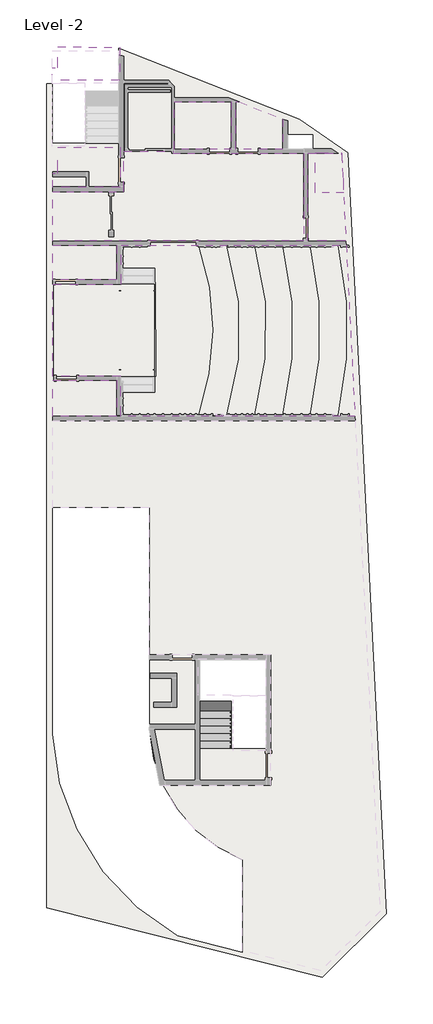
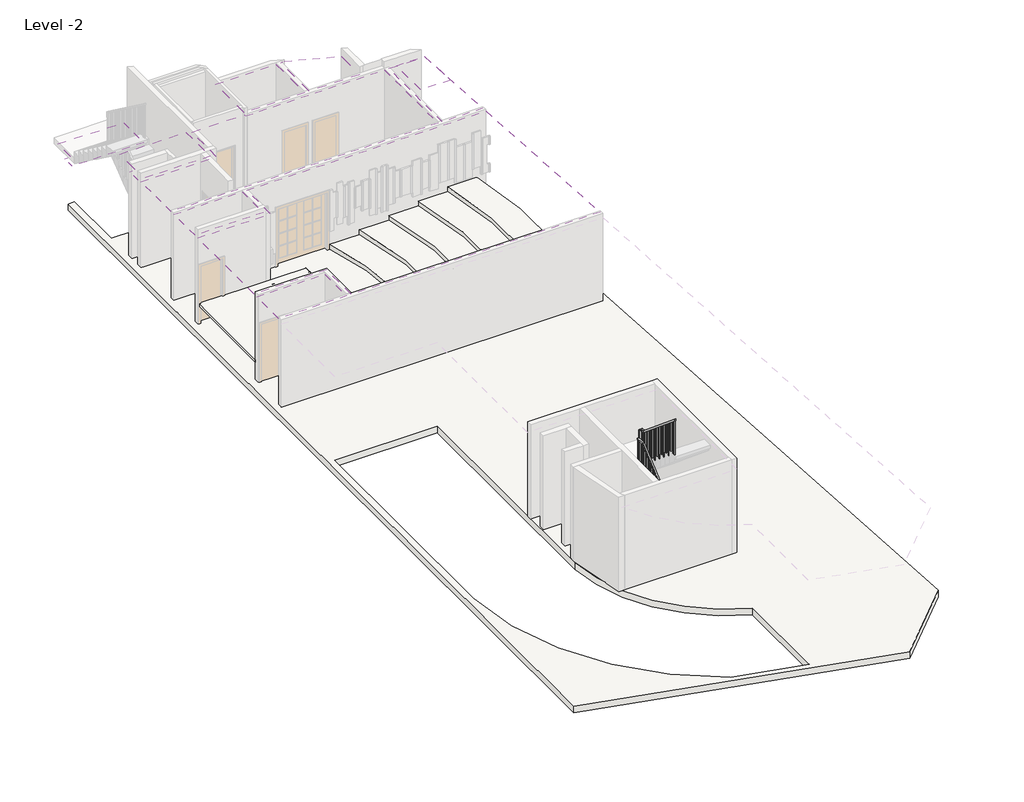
# One storey, part 5 of 6: 10 coverings, 7 slabs, 1 railing, 1 stair flight.
"""IFC4 building model written with IfcOpenShell, lengths in millimetres."""

from ifc_helpers import new_model, si_unit, point, frame, frame_2d, origin, place, context, project, spatial, polyline, circle_curve, trimmed, segment, composite_curve, outline, extrude, faceted_brep, element, save
from ifc_brep_helpers import plane_surface, cylinder_surface, revolved_surface, advanced_brep

model = new_model("IFC4")

# Units and contexts
model_context = context("Model", 3, world=origin())
ifc_project = project(units=[si_unit("LENGTHUNIT", "METRE", prefix="MILLI")], contexts=[model_context])

# Site, building, storey
site = spatial("IfcSite", under=ifc_project)
building = spatial("IfcBuilding", under=site)
storey = spatial("IfcBuildingStorey", under=building, Name="Level -2", Elevation=-7000.0)

# Coverings
placement = place(None, origin())
element("IfcCovering", 1, ObjectType="600 x 600mm Grid", at=placement, inside=storey, context=model_context, shape_type="SweptSolid", body=[
    extrude(outline(polyline([(2506.6368117, 6526.33213), (10908.1733563, 6526.33213), (11233.1660454, 141.5114142), (2500.2894211, 141.5114142), (2500.2894211, 1642.9427762), (-50.0290025, 1642.9427762), (-50.0290025, 5079.4754021), (2506.6368117, 5079.4754021), (2506.6368117, 6526.33213)])), frame((0.0, 0.0, -3800.0), z_axis=(0.0, 0.0, 1.0), x_axis=(1.0, 0.0, 0.0)), (0.0, 0.0, 1.0), 52.0),
])
element("IfcCovering", 2, ObjectType="600 x 600mm Grid", at=placement, inside=storey, context=model_context, shape_type="SweptSolid", body=[
    extrude(outline(polyline([(-50.0290025, 5239.4754021), (-50.0290025, 6526.33213), (2346.6368117, 6526.33213), (2346.6368117, 5239.4754021), (-50.0290025, 5239.4754021)])), frame((0.0, 0.0, -3800.0), z_axis=(0.0, 0.0, 1.0), x_axis=(1.0, 0.0, 0.0)), (0.0, 0.0, 1.0), 52.0),
])
element("IfcCovering", 3, ObjectType="600 x 600mm Grid", at=placement, inside=storey, context=model_context, shape_type="SweptSolid", body=[
    extrude(outline(polyline([(-50.0290025, 141.5114142), (-50.0290025, 1482.9427762), (2340.2894211, 1482.9427762), (2340.2894211, 141.5114142), (-50.0290025, 141.5114142)])), frame((0.0, 0.0, -3800.0), z_axis=(0.0, 0.0, 1.0), x_axis=(1.0, 0.0, 0.0)), (0.0, 0.0, 1.0), 52.0),
])
element("IfcCovering", 4, ObjectType="600 x 600mm Grid", at=placement, inside=storey, context=model_context, shape_type="SweptSolid", body=[
    extrude(outline(polyline([(-50.0290025, 6686.33213), (-50.0290025, 8531.9436159), (2599.6668671, 8531.9436159), (2599.6668671, 10031.9436225), (4449.6302337, 10031.9436225), (4449.6302337, 9954.899122), (9326.0873915, 9954.899122), (9326.0873915, 6686.33213), (-50.0290025, 6686.33213)])), frame((0.0, 0.0, -3800.0), z_axis=(0.0, 0.0, 1.0), x_axis=(1.0, 0.0, 0.0)), (0.0, 0.0, 1.0), 52.0),
])
element("IfcCovering", 5, ObjectType="600 x 600mm Grid", at=placement, inside=storey, context=model_context, shape_type="SweptSolid", body=[
    extrude(outline(polyline([(6783.7193041, 11874.4782744), (6923.4577063, 11874.4782744), (8546.2956563, 11236.7124719), (8546.2956563, 10114.899122), (6783.7193041, 10114.899122), (6783.7193041, 11874.4782744)])), frame((0.0, 0.0, -3800.0), z_axis=(0.0, 0.0, 1.0), x_axis=(1.0, 0.0, 0.0)), (0.0, 0.0, 1.0), 52.0),
])
element("IfcCovering", 6, ObjectType="600 x 600mm Grid", at=placement, inside=storey, context=model_context, shape_type="SweptSolid", body=[
    extrude(outline(polyline([(4499.6302337, 10114.899122), (4499.6302337, 11874.4782744), (6623.7193041, 11874.4782744), (6623.7193041, 10114.899122), (4499.6302337, 10114.899122)])), frame((0.0, 0.0, -3800.0), z_axis=(0.0, 0.0, 1.0), x_axis=(1.0, 0.0, 0.0)), (0.0, 0.0, 1.0), 52.0),
])
element("IfcCovering", 7, ObjectType="600 x 600mm Grid", at=placement, inside=storey, context=model_context, shape_type="SweptSolid", body=[
    extrude(outline(polyline([(9476.0873915, 9954.899122), (10733.6564426, 9954.899122), (10900.0292232, 6686.33213), (9476.0873915, 6686.33213), (9476.0873915, 9954.899122)])), frame((0.0, 0.0, -3800.0), z_axis=(0.0, 0.0, 1.0), x_axis=(1.0, 0.0, 0.0)), (0.0, 0.0, 1.0), 52.0),
])
element("IfcCovering", 8, ObjectType="600 x 600mm Grid", at=placement, inside=storey, context=model_context, shape_type="SweptSolid", body=[
    extrude(outline(polyline([(9748.9783115, 9974.899122), (10732.6384259, 9974.899122), (10808.7312912, 8479.9753316), (9748.9783115, 8479.9753316), (9748.9783115, 9974.899122)])), frame((0.0, 0.0, -3800.0), z_axis=(0.0, 0.0, 1.0), x_axis=(1.0, 0.0, 0.0)), (0.0, 0.0, 1.0), 52.0),
])
element("IfcCovering", 9, ObjectType="600 x 600mm Grid", at=placement, inside=storey, context=model_context, shape_type="SweptSolid", body=[
    extrude(outline(polyline([(2481.8607589, 10179.4957281), (2481.8607589, 8696.8748746), (-50.0421304, 8696.8748746), (-50.0421304, 9219.4957281), (149.9709975, 9219.4957281), (149.9709975, 10179.4957281), (2481.8607589, 10179.4957281)])), frame((0.0, 0.0, -3850.0), z_axis=(0.0, 0.0, 1.0), x_axis=(1.0, 0.0, 0.0)), (0.0, 0.0, 1.0), 52.0),
])
element("IfcCovering", 10, ObjectType="600 x 600mm Grid", at=placement, inside=storey, context=model_context, shape_type="SweptSolid", body=[
    extrude(outline(polyline([(2454.9743495, 12688.8107611), (-60.0421304, 12688.8107611), (-60.0421304, 13143.419171), (149.9709975, 13143.419171), (149.9709975, 13943.419171), (2454.9743495, 13908.8107611), (2454.9743495, 12688.8107611)])), frame((0.0, 0.0, -5750.0), z_axis=(0.0, 0.0, 1.0), x_axis=(1.0, 0.0, 0.0)), (0.0, 0.0, 1.0), 52.0),
])

# Railing
element("IfcRailing", 11, ObjectType="1100mm", at=placement, inside=storey, context=model_context, shape_type="SolidModel", body=[
    faceted_brep([(6559.5709976, -12235.6929429, -5666.6666667), (6559.5709976, -12235.6929429, -5731.7520806), (6609.5709976, -12235.6929429, -5731.7520806), (6609.5709976, -12235.6929429, -5666.6666667), (6559.5709976, -10555.6929429, -4266.6666667), (6559.5709976, -10537.5904462, -4316.6666667), (6609.5709976, -10537.5904462, -4316.6666667), (6609.5709976, -10555.6929429, -4266.6666667), (6559.5709976, -10225.2929429, -4266.6666667), (6559.5709976, -10225.2929429, -4316.6666667), (6609.5709976, -10275.2929429, -4316.6666667), (6609.5709976, -10275.2929429, -4266.6666667), (6615.3709976, -10225.2929429, -4266.6666667), (6665.3709976, -10225.2929429, -4316.6666667), (6665.3709976, -10275.2929429, -4316.6666667), (6615.3709976, -10275.2929429, -4266.6666667), (6615.3709976, -10225.2929429, -3971.1666667), (6665.3709976, -10225.2929429, -4021.1666667), (6665.3709976, -10275.2929429, -4021.1666667), (6615.3709976, -10275.2929429, -3971.1666667), (6740.3709976, -10225.2929429, -3971.1666667), (6740.3709976, -10225.2929429, -4021.1666667), (6690.3709976, -10275.2929429, -4021.1666667), (6690.3709976, -10275.2929429, -3971.1666667), (6740.3709976, -10350.2929429, -3971.1666667), (6740.3709976, -10368.3954397, -4021.1666667), (6690.3709976, -10368.3954397, -4021.1666667), (6690.3709976, -10350.2929429, -3971.1666667), (6740.3709976, -12235.6929429, -2400.0), (6690.3709976, -12235.6929429, -2400.0), (6690.3709976, -12235.6929429, -2465.085414), (6740.3709976, -12235.6929429, -2465.085414)], [[[0, 1, 2, 3]], [[1, 0, 4, 5]], [[2, 1, 5, 6]], [[3, 2, 6, 7]], [[0, 3, 7, 4]], [[5, 4, 8, 9]], [[6, 5, 9, 10]], [[7, 6, 10, 11]], [[4, 7, 11, 8]], [[9, 8, 12, 13]], [[10, 9, 13, 14]], [[11, 10, 14, 15]], [[8, 11, 15, 12]], [[13, 12, 16, 17]], [[14, 13, 17, 18]], [[15, 14, 18, 19]], [[12, 15, 19, 16]], [[17, 16, 20, 21]], [[18, 17, 21, 22]], [[19, 18, 22, 23]], [[16, 19, 23, 20]], [[21, 20, 24, 25]], [[22, 21, 25, 26]], [[23, 22, 26, 27]], [[20, 23, 27, 24]], [[28, 29, 30, 31]], [[25, 24, 28, 31]], [[26, 25, 31, 30]], [[27, 26, 30, 29]], [[24, 27, 29, 28]]]),
    extrude(outline(polyline([(-12127.7929429, -2555.0020806), (-12127.7929429, -3733.3333333), (-12152.7929429, -3733.3333333), (-12152.7929429, -2534.1687473), (-12127.7929429, -2555.0020806)])), frame((6702.8709976, 0.0, 0.0), z_axis=(1.0, 0.0, 0.0), x_axis=(0.0, 1.0, 0.0)), (0.0, 0.0, 1.0), 25.0),
    extrude(outline(polyline([(-11987.7929429, -2671.6687473), (-11987.7929429, -3733.3333333), (-12012.7929429, -3733.3333333), (-12012.7929429, -2650.835414), (-11987.7929429, -2671.6687473)])), frame((6702.8709976, 0.0, 0.0), z_axis=(1.0, 0.0, 0.0), x_axis=(0.0, 1.0, 0.0)), (0.0, 0.0, 1.0), 25.0),
    extrude(outline(polyline([(-11847.7929429, -2788.335414), (-11847.7929429, -3966.6666667), (-11872.7929429, -3966.6666667), (-11872.7929429, -2767.5020806), (-11847.7929429, -2788.335414)])), frame((6702.8709976, 0.0, 0.0), z_axis=(1.0, 0.0, 0.0), x_axis=(0.0, 1.0, 0.0)), (0.0, 0.0, 1.0), 25.0),
    extrude(outline(polyline([(-11707.7929429, -2905.0020806), (-11707.7929429, -3966.6666667), (-11732.7929429, -3966.6666667), (-11732.7929429, -2884.1687473), (-11707.7929429, -2905.0020806)])), frame((6702.8709976, 0.0, 0.0), z_axis=(1.0, 0.0, 0.0), x_axis=(0.0, 1.0, 0.0)), (0.0, 0.0, 1.0), 25.0),
    extrude(outline(polyline([(-11567.7929429, -3021.6687473), (-11567.7929429, -4200.0), (-11592.7929429, -4200.0), (-11592.7929429, -3000.835414), (-11567.7929429, -3021.6687473)])), frame((6702.8709976, 0.0, 0.0), z_axis=(1.0, 0.0, 0.0), x_axis=(0.0, 1.0, 0.0)), (0.0, 0.0, 1.0), 25.0),
    extrude(outline(polyline([(-11427.7929429, -3138.335414), (-11427.7929429, -4200.0), (-11452.7929429, -4200.0), (-11452.7929429, -3117.5020806), (-11427.7929429, -3138.335414)])), frame((6702.8709976, 0.0, 0.0), z_axis=(1.0, 0.0, 0.0), x_axis=(0.0, 1.0, 0.0)), (0.0, 0.0, 1.0), 25.0),
    extrude(outline(polyline([(-11287.7929429, -3255.0020806), (-11287.7929429, -4433.3333333), (-11312.7929429, -4433.3333333), (-11312.7929429, -3234.1687473), (-11287.7929429, -3255.0020806)])), frame((6702.8709976, 0.0, 0.0), z_axis=(1.0, 0.0, 0.0), x_axis=(0.0, 1.0, 0.0)), (0.0, 0.0, 1.0), 25.0),
    extrude(outline(polyline([(-11147.7929429, -3371.6687473), (-11147.7929429, -4433.3333333), (-11172.7929429, -4433.3333333), (-11172.7929429, -3350.835414), (-11147.7929429, -3371.6687473)])), frame((6702.8709976, 0.0, 0.0), z_axis=(1.0, 0.0, 0.0), x_axis=(0.0, 1.0, 0.0)), (0.0, 0.0, 1.0), 25.0),
    extrude(outline(polyline([(-11007.7929429, -3488.335414), (-11007.7929429, -4666.6666667), (-11032.7929429, -4666.6666667), (-11032.7929429, -3467.5020806), (-11007.7929429, -3488.335414)])), frame((6702.8709976, 0.0, 0.0), z_axis=(1.0, 0.0, 0.0), x_axis=(0.0, 1.0, 0.0)), (0.0, 0.0, 1.0), 25.0),
    extrude(outline(polyline([(-10867.7929429, -3605.0020806), (-10867.7929429, -4666.6666667), (-10892.7929429, -4666.6666667), (-10892.7929429, -3584.1687473), (-10867.7929429, -3605.0020806)])), frame((6702.8709976, 0.0, 0.0), z_axis=(1.0, 0.0, 0.0), x_axis=(0.0, 1.0, 0.0)), (0.0, 0.0, 1.0), 25.0),
    extrude(outline(polyline([(-10727.7929429, -3721.6687473), (-10727.7929429, -4900.0), (-10752.7929429, -4900.0), (-10752.7929429, -3700.835414), (-10727.7929429, -3721.6687473)])), frame((6702.8709976, 0.0, 0.0), z_axis=(1.0, 0.0, 0.0), x_axis=(0.0, 1.0, 0.0)), (0.0, 0.0, 1.0), 25.0),
    extrude(outline(polyline([(-10587.7929429, -3838.335414), (-10587.7929429, -4900.0), (-10612.7929429, -4900.0), (-10612.7929429, -3817.5020806), (-10587.7929429, -3838.335414)])), frame((6702.8709976, 0.0, 0.0), z_axis=(1.0, 0.0, 0.0), x_axis=(0.0, 1.0, 0.0)), (0.0, 0.0, 1.0), 25.0),
    extrude(outline(polyline([(-10447.7929429, -3955.0020806), (-10447.7929429, -5133.3333333), (-10472.7929429, -5133.3333333), (-10472.7929429, -3934.1687473), (-10447.7929429, -3955.0020806)])), frame((6702.8709976, 0.0, 0.0), z_axis=(1.0, 0.0, 0.0), x_axis=(0.0, 1.0, 0.0)), (0.0, 0.0, 1.0), 25.0),
    extrude(outline(polyline([(6702.8709976, -10307.7929429), (6727.8709976, -10307.7929429), (6727.8709976, -10332.7929429), (6702.8709976, -10332.7929429), (6702.8709976, -10307.7929429)])), frame((0.0, 0.0, -5133.3333333), z_axis=(0.0, 0.0, 1.0), x_axis=(1.0, 0.0, 0.0)), (0.0, 0.0, 1.0), 1112.1666667),
    extrude(outline(polyline([(6642.0709976, -10262.7929429), (6642.0709976, -10237.7929429), (6667.0709976, -10237.7929429), (6667.0709976, -10262.7929429), (6642.0709976, -10262.7929429)])), frame((0.0, 0.0, -5366.6666667), z_axis=(0.0, 0.0, 1.0), x_axis=(1.0, 0.0, 0.0)), (0.0, 0.0, 1.0), 1050.0),
    extrude(outline(polyline([(6597.0709976, -10358.1929429), (6572.0709976, -10358.1929429), (6572.0709976, -10333.1929429), (6597.0709976, -10333.1929429), (6597.0709976, -10358.1929429)])), frame((0.0, 0.0, -5366.6666667), z_axis=(0.0, 0.0, 1.0), x_axis=(1.0, 0.0, 0.0)), (0.0, 0.0, 1.0), 1050.0),
    extrude(outline(polyline([(6597.0709976, -10498.1929429), (6572.0709976, -10498.1929429), (6572.0709976, -10473.1929429), (6597.0709976, -10473.1929429), (6597.0709976, -10498.1929429)])), frame((0.0, 0.0, -5366.6666667), z_axis=(0.0, 0.0, 1.0), x_axis=(1.0, 0.0, 0.0)), (0.0, 0.0, 1.0), 1050.0),
    extrude(outline(polyline([(-10638.1929429, -5600.0), (-10638.1929429, -4400.5020806), (-10613.1929429, -4379.6687473), (-10613.1929429, -5600.0), (-10638.1929429, -5600.0)])), frame((6572.0709976, 0.0, 0.0), z_axis=(1.0, 0.0, 0.0), x_axis=(0.0, 1.0, 0.0)), (0.0, 0.0, 1.0), 25.0),
    extrude(outline(polyline([(-10778.1929429, -5600.0), (-10778.1929429, -4517.1687473), (-10753.1929429, -4496.335414), (-10753.1929429, -5600.0), (-10778.1929429, -5600.0)])), frame((6572.0709976, 0.0, 0.0), z_axis=(1.0, 0.0, 0.0), x_axis=(0.0, 1.0, 0.0)), (0.0, 0.0, 1.0), 25.0),
    extrude(outline(polyline([(-10918.1929429, -5833.3333333), (-10918.1929429, -4633.835414), (-10893.1929429, -4613.0020806), (-10893.1929429, -5833.3333333), (-10918.1929429, -5833.3333333)])), frame((6572.0709976, 0.0, 0.0), z_axis=(1.0, 0.0, 0.0), x_axis=(0.0, 1.0, 0.0)), (0.0, 0.0, 1.0), 25.0),
    extrude(outline(polyline([(-11058.1929429, -5833.3333333), (-11058.1929429, -4750.5020806), (-11033.1929429, -4729.6687473), (-11033.1929429, -5833.3333333), (-11058.1929429, -5833.3333333)])), frame((6572.0709976, 0.0, 0.0), z_axis=(1.0, 0.0, 0.0), x_axis=(0.0, 1.0, 0.0)), (0.0, 0.0, 1.0), 25.0),
    extrude(outline(polyline([(-11198.1929429, -6066.6666667), (-11198.1929429, -4867.1687473), (-11173.1929429, -4846.335414), (-11173.1929429, -6066.6666667), (-11198.1929429, -6066.6666667)])), frame((6572.0709976, 0.0, 0.0), z_axis=(1.0, 0.0, 0.0), x_axis=(0.0, 1.0, 0.0)), (0.0, 0.0, 1.0), 25.0),
    extrude(outline(polyline([(-11338.1929429, -6066.6666667), (-11338.1929429, -4983.835414), (-11313.1929429, -4963.0020806), (-11313.1929429, -6066.6666667), (-11338.1929429, -6066.6666667)])), frame((6572.0709976, 0.0, 0.0), z_axis=(1.0, 0.0, 0.0), x_axis=(0.0, 1.0, 0.0)), (0.0, 0.0, 1.0), 25.0),
    extrude(outline(polyline([(-11478.1929429, -6300.0), (-11478.1929429, -5100.5020806), (-11453.1929429, -5079.6687473), (-11453.1929429, -6300.0), (-11478.1929429, -6300.0)])), frame((6572.0709976, 0.0, 0.0), z_axis=(1.0, 0.0, 0.0), x_axis=(0.0, 1.0, 0.0)), (0.0, 0.0, 1.0), 25.0),
    extrude(outline(polyline([(-11618.1929429, -6300.0), (-11618.1929429, -5217.1687473), (-11593.1929429, -5196.335414), (-11593.1929429, -6300.0), (-11618.1929429, -6300.0)])), frame((6572.0709976, 0.0, 0.0), z_axis=(1.0, 0.0, 0.0), x_axis=(0.0, 1.0, 0.0)), (0.0, 0.0, 1.0), 25.0),
    extrude(outline(polyline([(-11758.1929429, -6533.3333333), (-11758.1929429, -5333.835414), (-11733.1929429, -5313.0020806), (-11733.1929429, -6533.3333333), (-11758.1929429, -6533.3333333)])), frame((6572.0709976, 0.0, 0.0), z_axis=(1.0, 0.0, 0.0), x_axis=(0.0, 1.0, 0.0)), (0.0, 0.0, 1.0), 25.0),
    extrude(outline(polyline([(-11898.1929429, -6533.3333333), (-11898.1929429, -5450.5020806), (-11873.1929429, -5429.6687473), (-11873.1929429, -6533.3333333), (-11898.1929429, -6533.3333333)])), frame((6572.0709976, 0.0, 0.0), z_axis=(1.0, 0.0, 0.0), x_axis=(0.0, 1.0, 0.0)), (0.0, 0.0, 1.0), 25.0),
    extrude(outline(polyline([(-12038.1929429, -6766.6666667), (-12038.1929429, -5567.1687473), (-12013.1929429, -5546.335414), (-12013.1929429, -6766.6666667), (-12038.1929429, -6766.6666667)])), frame((6572.0709976, 0.0, 0.0), z_axis=(1.0, 0.0, 0.0), x_axis=(0.0, 1.0, 0.0)), (0.0, 0.0, 1.0), 25.0),
    extrude(outline(polyline([(-12178.1929429, -6766.6666667), (-12178.1929429, -5683.835414), (-12153.1929429, -5663.0020806), (-12153.1929429, -6766.6666667), (-12178.1929429, -6766.6666667)])), frame((6572.0709976, 0.0, 0.0), z_axis=(1.0, 0.0, 0.0), x_axis=(0.0, 1.0, 0.0)), (0.0, 0.0, 1.0), 25.0),
    extrude(outline(polyline([(6702.8709976, -10237.7929429), (6727.8709976, -10237.7929429), (6727.8709976, -10262.7929429), (6702.8709976, -10262.7929429), (6702.8709976, -10237.7929429)])), frame((0.0, 0.0, -5366.6666667), z_axis=(0.0, 0.0, 1.0), x_axis=(1.0, 0.0, 0.0)), (0.0, 0.0, 1.0), 1345.5),
    extrude(outline(polyline([(6597.0709976, -10262.7929429), (6572.0709976, -10262.7929429), (6572.0709976, -10237.7929429), (6597.0709976, -10237.7929429), (6597.0709976, -10262.7929429)])), frame((0.0, 0.0, -5366.6666667), z_axis=(0.0, 0.0, 1.0), x_axis=(1.0, 0.0, 0.0)), (0.0, 0.0, 1.0), 1050.0),
    extrude(outline(polyline([(-10568.1929429, -5366.6666667), (-10568.1929429, -4342.1687473), (-10543.1929429, -4321.335414), (-10543.1929429, -5366.6666667), (-10568.1929429, -5366.6666667)])), frame((6572.0709976, 0.0, 0.0), z_axis=(1.0, 0.0, 0.0), x_axis=(0.0, 1.0, 0.0)), (0.0, 0.0, 1.0), 25.0),
    extrude(outline(polyline([(-12210.6929429, -2485.9187473), (-12210.6929429, -3733.3333333), (-12235.6929429, -3733.3333333), (-12235.6929429, -2465.085414), (-12210.6929429, -2485.9187473)])), frame((6702.8709976, 0.0, 0.0), z_axis=(1.0, 0.0, 0.0), x_axis=(0.0, 1.0, 0.0)), (0.0, 0.0, 1.0), 25.0),
    extrude(outline(polyline([(-12235.6929429, -6766.6666667), (-12235.6929429, -5731.7520806), (-12210.6929429, -5710.9187473), (-12210.6929429, -6766.6666667), (-12235.6929429, -6766.6666667)])), frame((6572.0709976, 0.0, 0.0), z_axis=(1.0, 0.0, 0.0), x_axis=(0.0, 1.0, 0.0)), (0.0, 0.0, 1.0), 25.0),
])

# Slabs
element("IfcSlab", 12, ObjectType="Standard Timber-sang Finish 2", at=placement, inside=storey, context=model_context, shape_type="AdvancedBrep", body=[
    advanced_brep(
    [(9156.5694815, 11238.6298521, -7241.0), (10957.1933497, 9989.3657475, -7241.0), (12403.1153427, -18417.281555, -7241.0), (10022.4900241, -20797.9068736, -7241.0), (-275.0290025, -18194.9820731, -7241.0), (-275.0290025, 12561.9436225, -7241.0), (-60.0290025, 12561.9436225, -7241.0), (-60.0290025, 10328.8506586, -7241.0), (2419.6668671, 10328.8506586, -7241.0), (2419.6668671, 12561.9436225, -7241.0), (2424.9709975, 12561.9436225, -7241.0), (2424.9709975, 13884.1086008, -7241.0), (4630.7168036, -19241.4894179, -7241.0), (7033.8183565, -19848.9262785, -7241.0), (7033.8183565, -19810.3775142, -7241.0), (7033.8183565, -16402.4446286, -7241.0), (3549.4089841, -11616.6597812, -7241.0), (3549.4089841, -3268.2489802, -7241.0), (-50.5910159, -3268.2489802, -7241.0), (-50.5910159, -11648.2489802, -7241.0), (-50.5910159, -11713.7810095, -7241.0), (7909.9709976, -8940.5298497, -7241.0), (5449.992527, -8940.5298497, -7241.0), (5449.992527, -12235.6929429, -7241.0), (7909.9709976, -12235.6929429, -7241.0), (9656.2956563, 10654.899122, -7241.0), (8676.2956563, 10654.899122, -7241.0), (8676.2956563, 10104.899122, -7241.0), (9656.2956563, 10104.899122, -7241.0), (10957.1933497, 9989.3657475, -7000.0), (9156.5694815, 11238.6298521, -7000.0), (2424.9709975, 13884.1086008, -7000.0), (2424.9709975, 12561.9436225, -7000.0), (2419.6668671, 12561.9436225, -7000.0), (2419.6668671, 10328.8506586, -7000.0), (-60.0290025, 10328.8506586, -7000.0), (-60.0290025, 12561.9436225, -7000.0), (-275.0290025, 12561.9436225, -7000.0), (-275.0290025, -18194.9820731, -7000.0), (10022.4900241, -20797.9068736, -7000.0), (12403.1153427, -18417.281555, -7000.0), (7033.8183565, -19848.9262785, -7000.0), (4630.7168036, -19241.4894179, -7000.0), (-50.5910159, -11713.7810095, -7000.0), (-50.5910159, -11648.2489802, -7000.0), (-50.5910159, -3268.2489802, -7000.0), (3549.4089841, -3268.2489802, -7000.0), (3549.4089841, -11616.6597812, -7000.0), (7033.8183565, -16402.4446286, -7000.0), (7033.8183565, -19810.3775142, -7000.0), (5449.992527, -8940.5298497, -7000.0), (7909.9709976, -8940.5298497, -7000.0), (7909.9709976, -12235.6929429, -7000.0), (5449.992527, -12235.6929429, -7000.0), (8676.2956563, 10654.899122, -7000.0), (9656.2956563, 10654.899122, -7000.0), (9656.2956563, 10104.899122, -7000.0), (8676.2956563, 10104.899122, -7000.0)],
    [
        (0, 1),
        (1, 2),
        (2, 3),
        (3, 4),
        (4, 5),
        (5, 6),
        (6, 7),
        (7, 8),
        (8, 9),
        (9, 10),
        (10, 11),
        (11, 0),
        (12, 13),
        (13, 14),
        (14, 15),
        (15, 16, circle_curve(frame((9044.1542392, -11277.4219597, -7241.0), z_axis=(0.0, 0.0, -1.0), x_axis=(1.0, 0.0, 0.0)), 5505.2073274)),
        (16, 17),
        (17, 18),
        (18, 19),
        (19, 20),
        (20, 12, circle_curve(frame((9044.1542392, -11277.4219597, -7241.0), z_axis=(0.0, 0.0, 1.0), x_axis=(1.0, 0.0, 0.0)), 9105.2073274)),
        (21, 22),
        (22, 23),
        (23, 24),
        (24, 21),
        (25, 26),
        (26, 27),
        (27, 28),
        (28, 25),
        (29, 30),
        (30, 31),
        (31, 32),
        (32, 33),
        (33, 34),
        (34, 35),
        (35, 36),
        (36, 37),
        (37, 38),
        (38, 39),
        (39, 40),
        (40, 29),
        (41, 42),
        (42, 43, circle_curve(frame((9044.1542392, -11277.4219597, -7000.0), z_axis=(0.0, 0.0, -1.0), x_axis=(1.0, 0.0, 0.0)), 9105.2073274)),
        (43, 44),
        (44, 45),
        (45, 46),
        (46, 47),
        (47, 48, circle_curve(frame((9044.1542392, -11277.4219597, -7000.0), z_axis=(0.0, 0.0, 1.0), x_axis=(1.0, 0.0, 0.0)), 5505.2073274)),
        (48, 49),
        (49, 41),
        (50, 51),
        (51, 52),
        (52, 53),
        (53, 50),
        (54, 55),
        (55, 56),
        (56, 57),
        (57, 54),
        (0, 30),
        (29, 1),
        (40, 2),
        (39, 3),
        (38, 4),
        (37, 5),
        (11, 31),
        (12, 42),
        (41, 13),
        (48, 15),
        (47, 16),
        (17, 46),
        (45, 18),
        (44, 19),
        (43, 20),
        (35, 7),
        (6, 36),
        (34, 8),
        (33, 9),
        (21, 51),
        (50, 22),
        (53, 23),
        (52, 24),
        (25, 55),
        (54, 26),
        (57, 27),
        (56, 28),
        (32, 10),
    ],
    [
        plane_surface(frame((9156.5694815, 11238.6298521, -7241.0), z_axis=(0.0, 0.0, -1.0), x_axis=(0.8216198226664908, -0.5700358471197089, 0.0))),
        plane_surface(frame((9156.5694815, 11238.6298521, -7000.0), z_axis=(0.0, 0.0, 1.0), x_axis=(-0.8216198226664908, 0.5700358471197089, 0.0))),
        plane_surface(frame((9156.5694815, 11238.6298521, -7241.0), z_axis=(0.5700358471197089, 0.8216198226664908, 0.0), x_axis=(0.0, 0.0, 1.0))),
        plane_surface(frame((10957.1933497, 9989.3657475, -7241.0), z_axis=(0.9987070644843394, 0.05083502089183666, 0.0), x_axis=(0.0, 0.0, 1.0))),
        plane_surface(frame((12403.1153427, -18417.281555, -7241.0), z_axis=(0.7071067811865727, -0.7071067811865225, 0.0), x_axis=(0.0, 0.0, 1.0))),
        plane_surface(frame((10022.4900241, -20797.9068736, -7241.0), z_axis=(-0.24506421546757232, -0.9695068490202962, 0.0), x_axis=(0.0, 0.0, 1.0))),
        plane_surface(frame((-275.0290025, -18194.9820731, -7241.0), z_axis=(-1.0, 0.0, 0.0), x_axis=(0.0, 0.0, 1.0))),
        plane_surface(frame((2424.9709975, 13884.1086008, -7241.0), z_axis=(0.36576282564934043, 0.9307080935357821, 0.0), x_axis=(0.0, 0.0, 1.0))),
        plane_surface(frame((4630.7168036, -19241.4894179, -7241.0), z_axis=(0.24506421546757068, 0.9695068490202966, 0.0), x_axis=(0.0, 0.0, 1.0))),
        plane_surface(frame((7033.8183565, -19848.9262785, -7241.0), z_axis=(-1.0, 0.0, 0.0), x_axis=(0.0, 0.0, 1.0))),
        cylinder_surface(frame((9044.1542392, -11277.4219597, -7000.0), z_axis=(0.0, 0.0, -1.0), x_axis=(1.0, 0.0, 0.0)), 5505.2073274),
        plane_surface(frame((3548.8968515, -3268.2489802, -7241.0), z_axis=(0.0, -1.0, 0.0), x_axis=(0.0, 0.0, 1.0))),
        plane_surface(frame((-50.5910159, -3268.2489802, -7241.0), z_axis=(1.0, 0.0, 0.0), x_axis=(0.0, 0.0, 1.0))),
        plane_surface(frame((-50.5910159, -11648.2489802, -7241.0), z_axis=(1.0, 0.0, 0.0), x_axis=(0.0, 0.0, 1.0))),
        revolved_surface(polyline([(18149.361566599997, -11277.4219597, -7000.0), (18149.361566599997, -11277.4219597, -7241.0)]), (9044.1542392, -11277.4219597, -7000.0), (0.0, 0.0, 1.0)),
        plane_surface(frame((-60.0290025, 12568.8506586, 3804.8), z_axis=(1.0, 0.0, 0.0), x_axis=(0.0, 0.0, -1.0))),
        plane_surface(frame((-60.0290025, 10328.8506586, 3804.8), z_axis=(0.0, 1.0, 0.0), x_axis=(0.0, 0.0, -1.0))),
        plane_surface(frame((2419.6668671, 10328.8506586, 3804.8), z_axis=(-1.0, 0.0, 0.0), x_axis=(0.0, 0.0, -1.0))),
        plane_surface(frame((7909.9709976, -8940.5298497, 3804.8), z_axis=(0.0, -1.0, 0.0), x_axis=(0.0, 0.0, -1.0))),
        plane_surface(frame((5449.992527, -8940.5298497, 3804.8), z_axis=(1.0, 0.0, 0.0), x_axis=(0.0, 0.0, -1.0))),
        plane_surface(frame((5449.992527, -12235.6929429, 3804.8), z_axis=(0.0, 1.0, 0.0), x_axis=(0.0, 0.0, -1.0))),
        plane_surface(frame((7909.9709976, -12235.6929429, 3804.8), z_axis=(-1.0, 0.0, 0.0), x_axis=(0.0, 0.0, -1.0))),
        plane_surface(frame((9656.2956563, 10654.899122, 304.8), z_axis=(0.0, -1.0, 0.0), x_axis=(0.0, 0.0, -1.0))),
        plane_surface(frame((8676.2956563, 10654.899122, 304.8), z_axis=(1.0, 0.0, 0.0), x_axis=(0.0, 0.0, -1.0))),
        plane_surface(frame((8676.2956563, 10104.899122, 304.8), z_axis=(0.0, 1.0, 0.0), x_axis=(0.0, 0.0, -1.0))),
        plane_surface(frame((9656.2956563, 10104.899122, 304.8), z_axis=(-1.0, 0.0, 0.0), x_axis=(0.0, 0.0, -1.0))),
        plane_surface(frame((3549.4089841, -11616.6597812, -5972.2), z_axis=(-1.0, 0.0, 0.0), x_axis=(0.0, 0.0, -1.0))),
        plane_surface(frame((-275.0290025, 12561.9436225, -7241.0), z_axis=(0.0, 1.0, 0.0), x_axis=(0.0, 0.0, 1.0))),
        plane_surface(frame((2424.9709975, 12561.9436225, -7241.0), z_axis=(-1.0, 0.0, 0.0), x_axis=(0.0, 0.0, 1.0))),
    ],
    [
        (0, [[1, 2, 3, 4, 5, 6, 7, 8, 9, 10, 11, 12], [13, 14, 15, 16, 17, 18, 19, 20, 21], [22, 23, 24, 25], [26, 27, 28, 29]]),
        (1, [[30, 31, 32, 33, 34, 35, 36, 37, 38, 39, 40, 41], [42, 43, 44, 45, 46, 47, 48, 49, 50], [51, 52, 53, 54], [55, 56, 57, 58]]),
        (2, [[-1, 59, -30, 60]]),
        (3, [[-2, -60, -41, 61]]),
        (4, [[-3, -61, -40, 62]]),
        (5, [[-4, -62, -39, 63]]),
        (6, [[-5, -63, -38, 64]]),
        (7, [[-12, 65, -31, -59]]),
        (8, [[-13, 66, -42, 67]]),
        (9, [[-67, -50, -49, 68, -15, -14]]),
        (10, [[-68, -48, 69, -16]]),
        (11, [[70, -46, 71, -18]]),
        (12, [[-19, -71, -45, 72]]),
        (13, [[-20, -72, -44, 73]]),
        (14, [[-21, -73, -43, -66]]),
        (15, [[74, -7, 75, -36]]),
        (16, [[-74, -35, 76, -8]]),
        (17, [[-76, -34, 77, -9]]),
        (18, [[78, -51, 79, -22]]),
        (19, [[-79, -54, 80, -23]]),
        (20, [[-80, -53, 81, -24]]),
        (21, [[-78, -25, -81, -52]]),
        (22, [[82, -55, 83, -26]]),
        (23, [[-83, -58, 84, -27]]),
        (24, [[-84, -57, 85, -28]]),
        (25, [[-82, -29, -85, -56]]),
        (26, [[-70, -17, -69, -47]]),
        (27, [[-64, -37, -75, -6]]),
        (27, [[86, -10, -77, -33]]),
        (28, [[-11, -86, -32, -65]]),
    ],
),
])
element("IfcSlab", 13, ObjectType="Standard Timber-Wood Finish-ejtema", at=placement, inside=storey, context=model_context, shape_type="SweptSolid", body=[
    extrude(outline(composite_curve([segment(trimmed(circle_curve(frame_2d((-3560.294592, 3363.5578296)), 7505.5928445), [point((3746.5207767, 5079.4754021))], [point((3745.4160364, 1642.9427762))], False, "CARTESIAN"), True, "CONTINUOUS"), segment(polyline([(3745.4160364, 1642.9427762), (2500.2894211, 1642.9427762), (-6.0601484, 1642.9427762), (-6.0601484, 5079.4754021), (3746.5207767, 5079.4754021)]), True, "CONTINUOUS")], self_intersect=False)), frame((0.0, 0.0, -6341.0), z_axis=(0.0, 0.0, 1.0), x_axis=(1.0, 0.0, 0.0)), (0.0, 0.0, 1.0), 91.0),
])
element("IfcSlab", 14, ObjectType="Standard Timber-Wood Finish", at=placement, inside=storey, context=model_context, shape_type="SweptSolid", body=[
    extrude(outline(composite_curve([segment(polyline([(5403.6974903, 6526.33213), (6457.9058322, 6526.33213)]), True, "CONTINUOUS"), segment(trimmed(circle_curve(frame_2d((-3560.294592, 3363.5578296)), 10505.5928445), [point((6457.9058322, 6526.33213))], [point((6451.8011739, 181.5114142))], False, "CARTESIAN"), True, "CONTINUOUS"), segment(polyline([(6451.8011739, 181.5114142), (5396.8743768, 181.5114142)]), True, "CONTINUOUS"), segment(trimmed(circle_curve(frame_2d((-3560.294592, 3363.5578296)), 9505.5928445), [point((5396.8743768, 181.5114142))], [point((5403.6974903, 6526.33213))], True, "CARTESIAN"), True, "CONTINUOUS")], self_intersect=False)), frame((0.0, 0.0, -7071.0), z_axis=(0.0, 0.0, 1.0), x_axis=(1.0, 0.0, 0.0)), (0.0, 0.0, 1.0), 241.0),
])
element("IfcSlab", 15, ObjectType="Standard Timber-Wood Finish", at=placement, inside=storey, context=model_context, shape_type="SweptSolid", body=[
    extrude(outline(composite_curve([segment(trimmed(circle_curve(frame_2d((-3560.294592, 3363.5578296)), 10505.5928445), [point((6451.8011739, 181.5114142))], [point((6457.9058322, 6526.33213))], True, "CARTESIAN"), True, "CONTINUOUS"), segment(polyline([(6457.9058322, 6526.33213), (7502.0526015, 6526.33213)]), True, "CONTINUOUS"), segment(trimmed(circle_curve(frame_2d((-3560.294592, 3363.5578296)), 11505.5928445), [point((7502.0526015, 6526.33213))], [point((7496.5244494, 181.5114142))], False, "CARTESIAN"), True, "CONTINUOUS"), segment(polyline([(7496.5244494, 181.5114142), (6451.8011739, 181.5114142)]), True, "CONTINUOUS")], self_intersect=False)), frame((0.0, 0.0, -6901.0), z_axis=(0.0, 0.0, 1.0), x_axis=(1.0, 0.0, 0.0)), (0.0, 0.0, 1.0), 241.0),
])
element("IfcSlab", 16, ObjectType="Standard Timber-Wood Finish", at=placement, inside=storey, context=model_context, shape_type="SweptSolid", body=[
    extrude(outline(composite_curve([segment(trimmed(circle_curve(frame_2d((-3560.294592, 3363.5578296)), 11505.5928445), [point((7496.5244494, 181.5114142))], [point((7502.0526015, 6526.33213))], True, "CARTESIAN"), True, "CONTINUOUS"), segment(polyline([(7502.0526015, 6526.33213), (8538.7430192, 6526.33213)]), True, "CONTINUOUS"), segment(trimmed(circle_curve(frame_2d((-3560.294592, 3363.5578296)), 12505.5928445), [point((8538.7430192, 6526.33213))], [point((8533.688747, 181.5114142))], False, "CARTESIAN"), True, "CONTINUOUS"), segment(polyline([(8533.688747, 181.5114142), (7496.5244494, 181.5114142)]), True, "CONTINUOUS")], self_intersect=False)), frame((0.0, 0.0, -6731.0), z_axis=(0.0, 0.0, 1.0), x_axis=(1.0, 0.0, 0.0)), (0.0, 0.0, 1.0), 241.0),
])
element("IfcSlab", 17, ObjectType="Standard Timber-Wood Finish", at=placement, inside=storey, context=model_context, shape_type="SweptSolid", body=[
    extrude(outline(composite_curve([segment(trimmed(circle_curve(frame_2d((-3560.294592, 3363.5578296)), 12505.5928445), [point((8533.688747, 181.5114142))], [point((8538.7430192, 6526.33213))], True, "CARTESIAN"), True, "CONTINUOUS"), segment(polyline([(8538.7430192, 6526.33213), (9569.7433671, 6526.33213)]), True, "CONTINUOUS"), segment(trimmed(circle_curve(frame_2d((-3560.294592, 3363.5578296)), 13505.5928445), [point((9569.7433671, 6526.33213))], [point((9565.0861146, 181.5114142))], False, "CARTESIAN"), True, "CONTINUOUS"), segment(polyline([(9565.0861146, 181.5114142), (8533.688747, 181.5114142)]), True, "CONTINUOUS")], self_intersect=False)), frame((0.0, 0.0, -6561.0), z_axis=(0.0, 0.0, 1.0), x_axis=(1.0, 0.0, 0.0)), (0.0, 0.0, 1.0), 241.0),
])
element("IfcSlab", 18, ObjectType="Standard Timber-Wood Finish", at=placement, inside=storey, context=model_context, shape_type="SweptSolid", body=[
    extrude(outline(composite_curve([segment(trimmed(circle_curve(frame_2d((-3560.294592, 3363.5578296)), 13505.5928445), [point((9565.0861146, 181.5114142))], [point((9569.7433671, 6526.33213))], True, "CARTESIAN"), True, "CONTINUOUS"), segment(polyline([(9569.7433671, 6526.33213), (10596.2968938, 6526.33213)]), True, "CONTINUOUS"), segment(trimmed(circle_curve(frame_2d((-3560.294592, 3363.5578296)), 14505.5928445), [point((10596.2968938, 6526.33213))], [point((10591.9774652, 181.5114142))], False, "CARTESIAN"), True, "CONTINUOUS"), segment(polyline([(10591.9774652, 181.5114142), (9565.0861146, 181.5114142)]), True, "CONTINUOUS")], self_intersect=False)), frame((0.0, 0.0, -6391.0), z_axis=(0.0, 0.0, 1.0), x_axis=(1.0, 0.0, 0.0)), (0.0, 0.0, 1.0), 241.0),
])

# Stair flight
element("IfcStairFlight", 19, ObjectType="190mm Depth", at=placement, inside=storey, context=model_context, shape_type="Brep", body=[
    faceted_brep([(5389.9709976, -11955.6929429, -6766.6666667), (5389.9709976, -12235.6929429, -6766.6666667), (6609.9709976, -12235.6929429, -6766.6666667), (6609.9709976, -11955.6929429, -6766.6666667), (5389.9709976, -11955.6929429, -7000.0), (5389.9709976, -12235.6929429, -7000.0), (6609.9709976, -12235.6929429, -7000.0), (6609.9709976, -11955.6929429, -7000.0), (5389.9709976, -11675.6929429, -6533.3333333), (5389.9709976, -11955.6929429, -6533.3333333), (6609.9709976, -11955.6929429, -6533.3333333), (6609.9709976, -11675.6929429, -6533.3333333), (5389.9709976, -11675.6929429, -6780.6579064), (5389.9709976, -11938.9034552, -7000.0), (6609.9709976, -11938.9034552, -7000.0), (6609.9709976, -11675.6929429, -6780.6579064), (5389.9709976, -11395.6929429, -6300.0), (5389.9709976, -11675.6929429, -6300.0), (6609.9709976, -11675.6929429, -6300.0), (6609.9709976, -11395.6929429, -6300.0), (5389.9709976, -11395.6929429, -6547.3245731), (6609.9709976, -11395.6929429, -6547.3245731), (5389.9709976, -11115.6929429, -6066.6666667), (5389.9709976, -11395.6929429, -6066.6666667), (6609.9709976, -11395.6929429, -6066.6666667), (6609.9709976, -11115.6929429, -6066.6666667), (5389.9709976, -11115.6929429, -6313.9912397), (6609.9709976, -11115.6929429, -6313.9912397), (5389.9709976, -10835.6929429, -5833.3333333), (5389.9709976, -11115.6929429, -5833.3333333), (6609.9709976, -11115.6929429, -5833.3333333), (6609.9709976, -10835.6929429, -5833.3333333), (5389.9709976, -10835.6929429, -6080.6579064), (6609.9709976, -10835.6929429, -6080.6579064), (5389.9709976, -10555.6929429, -5600.0), (5389.9709976, -10835.6929429, -5600.0), (6609.9709976, -10835.6929429, -5600.0), (6609.9709976, -10555.6929429, -5600.0), (5389.9709976, -10555.6929429, -5847.3245731), (6609.9709976, -10555.6929429, -5847.3245731), (5389.9709976, -10555.6929429, -5366.6666667), (6609.9709976, -10555.6929429, -5366.6666667), (6609.9709976, -10175.6929429, -5366.6666667), (5389.9709976, -10175.6929429, -5366.6666667), (5389.9709976, -10175.6929429, -5466.6666667), (5389.9709976, -10275.6929429, -5466.6666667), (5389.9709976, -10275.6929429, -5613.9912397), (6609.9709976, -10275.6929429, -5613.9912397), (6609.9709976, -10275.6929429, -5466.6666667), (6609.9709976, -10175.6929429, -5466.6666667)], [[[0, 1, 2, 3]], [[1, 0, 4, 5]], [[2, 1, 5, 6]], [[3, 2, 6, 7]], [[8, 9, 10, 11]], [[4, 0, 9, 8, 12, 13]], [[0, 3, 10, 9]], [[3, 7, 14, 15, 11, 10]], [[16, 17, 18, 19]], [[17, 16, 20, 12, 8]], [[8, 11, 18, 17]], [[19, 18, 11, 15, 21]], [[22, 23, 24, 25]], [[23, 22, 26, 20, 16]], [[16, 19, 24, 23]], [[25, 24, 19, 21, 27]], [[28, 29, 30, 31]], [[29, 28, 32, 26, 22]], [[22, 25, 30, 29]], [[31, 30, 25, 27, 33]], [[34, 35, 36, 37]], [[35, 34, 38, 32, 28]], [[28, 31, 36, 35]], [[37, 36, 31, 33, 39]], [[40, 41, 42, 43]], [[40, 43, 44, 45, 46, 38, 34]], [[34, 37, 41, 40]], [[42, 41, 37, 39, 47, 48, 49]], [[48, 47, 46, 45]], [[5, 4, 13, 14, 7, 6]], [[14, 13, 12, 20, 26, 32, 38, 46, 47, 39, 33, 27, 21, 15]], [[49, 48, 45, 44]], [[49, 44, 43, 42]]]),
])

save(model, "model.ifc")
